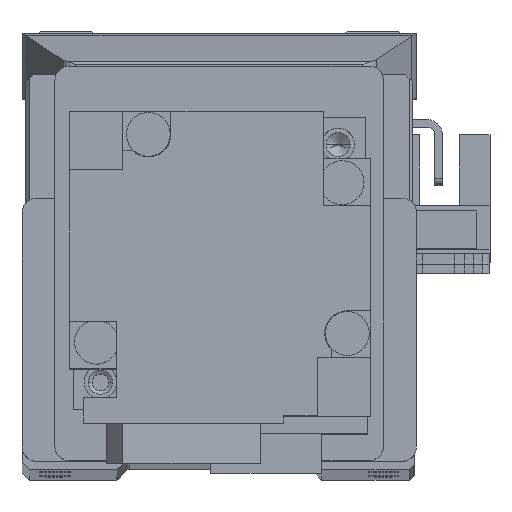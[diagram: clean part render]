
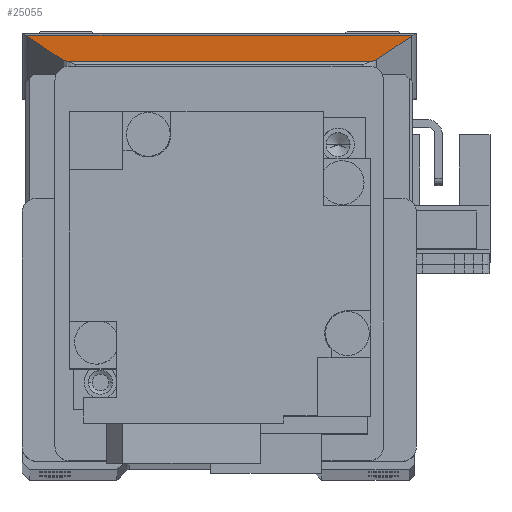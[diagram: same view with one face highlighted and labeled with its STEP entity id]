
A CAD part, top view. The second image highlights one B-rep face of the part: STEP entity #25055.
In plain terms, the highlighted planar face has unit normal (0, 0.966, 0.258).
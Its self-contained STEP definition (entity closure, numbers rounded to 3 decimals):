
#425 =( BOUNDED_CURVE ( )  B_SPLINE_CURVE ( 3, ( #731, #18451, #21649, #33460 ),
 .UNSPECIFIED., .F., .F. ) 
 B_SPLINE_CURVE_WITH_KNOTS ( ( 4, 4 ),
 ( 4.332, 4.388 ),
 .UNSPECIFIED. ) 
 CURVE ( )  GEOMETRIC_REPRESENTATION_ITEM ( )  RATIONAL_B_SPLINE_CURVE ( ( 1., 1., 1., 1. ) ) 
 REPRESENTATION_ITEM ( '' )  );
#731 = CARTESIAN_POINT ( 'NONE',  ( 26.285, 49.723, 44.788 ) ) ;
#1481 = CARTESIAN_POINT ( 'NONE',  ( 27., 46.299, 57.629 ) ) ;
#2100 = CARTESIAN_POINT ( 'NONE',  ( 21.121, 46.359, 57.405 ) ) ;
#2180 = CARTESIAN_POINT ( 'NONE',  ( -21.503, 46.535, 56.743 ) ) ;
#2993 = ORIENTED_EDGE ( 'NONE', *, *, #35542, .T. ) ;
#3216 = FACE_OUTER_BOUND ( 'NONE', #4345, .T. ) ;
#4345 = EDGE_LOOP ( 'NONE', ( #29392, #35429, #2993, #20332, #15491, #14915, #11679, #35006 ) ) ;
#4455 =( BOUNDED_CURVE ( )  B_SPLINE_CURVE ( 3, ( #10727, #2100, #27875, #22506 ),
 .UNSPECIFIED., .F., .F. ) 
 B_SPLINE_CURVE_WITH_KNOTS ( ( 4, 4 ),
 ( 3.761, 4.332 ),
 .UNSPECIFIED. ) 
 CURVE ( )  GEOMETRIC_REPRESENTATION_ITEM ( )  RATIONAL_B_SPLINE_CURVE ( ( 1., 0.973, 0.973, 1. ) ) 
 REPRESENTATION_ITEM ( '' )  );
#4469 = LINE ( 'NONE', #1481, #26791 ) ;
#4616 = EDGE_CURVE ( 'NONE', #5844, #36086, #9837, .T. ) ;
#5209 = EDGE_CURVE ( 'NONE', #10524, #16315, #4455, .T. ) ;
#5844 = VERTEX_POINT ( 'NONE', #2180 ) ;
#6038 = VECTOR ( 'NONE', #15320, 1000. ) ;
#6215 = EDGE_CURVE ( 'NONE', #23630, #31814, #425, .T. ) ;
#6425 = EDGE_CURVE ( 'NONE', #10524, #36086, #4469, .T. ) ;
#6682 = CARTESIAN_POINT ( 'NONE',  ( 26.285, 49.723, 44.788 ) ) ;
#7770 = CARTESIAN_POINT ( 'NONE',  ( 21.503, 46.535, 56.743 ) ) ;
#8201 = CARTESIAN_POINT ( 'NONE',  ( 20.806, 46.299, 57.629 ) ) ;
#9001 = DIRECTION ( 'NONE',  ( 0., 0.258, -0.966 ) ) ;
#9837 =( BOUNDED_CURVE ( )  B_SPLINE_CURVE ( 3, ( #24827, #16152, #19214, #19085 ),
 .UNSPECIFIED., .F., .F. ) 
 B_SPLINE_CURVE_WITH_KNOTS ( ( 4, 4 ),
 ( 1.951, 2.523 ),
 .UNSPECIFIED. ) 
 CURVE ( )  GEOMETRIC_REPRESENTATION_ITEM ( )  RATIONAL_B_SPLINE_CURVE ( ( 1., 0.973, 0.973, 1. ) ) 
 REPRESENTATION_ITEM ( '' )  );
#10428 =( BOUNDED_CURVE ( )  B_SPLINE_CURVE ( 3, ( #25057, #22533, #16384, #31387 ),
 .UNSPECIFIED., .F., .F. ) 
 B_SPLINE_CURVE_WITH_KNOTS ( ( 4, 4 ),
 ( 1.896, 1.951 ),
 .UNSPECIFIED. ) 
 CURVE ( )  GEOMETRIC_REPRESENTATION_ITEM ( )  RATIONAL_B_SPLINE_CURVE ( ( 1., 1., 1., 1. ) ) 
 REPRESENTATION_ITEM ( '' )  );
#10524 = VERTEX_POINT ( 'NONE', #8201 ) ;
#10727 = CARTESIAN_POINT ( 'NONE',  ( 20.806, 46.299, 57.629 ) ) ;
#11679 = ORIENTED_EDGE ( 'NONE', *, *, #6425, .F. ) ;
#11772 = PLANE ( 'NONE',  #15812 ) ;
#12834 = EDGE_CURVE ( 'NONE', #37447, #5844, #17880, .T. ) ;
#14280 = LINE ( 'NONE', #37147, #36768 ) ;
#14282 = VERTEX_POINT ( 'NONE', #26313 ) ;
#14530 = CARTESIAN_POINT ( 'NONE',  ( 26.477, 49.862, 44.266 ) ) ;
#14915 = ORIENTED_EDGE ( 'NONE', *, *, #4616, .T. ) ;
#15007 = EDGE_CURVE ( 'NONE', #16315, #23630, #32760, .T. ) ;
#15320 = DIRECTION ( 'NONE',  ( 0.361, -0.24, 0.901 ) ) ;
#15491 = ORIENTED_EDGE ( 'NONE', *, *, #12834, .T. ) ;
#15812 = AXIS2_PLACEMENT_3D ( 'NONE', #32283, #17653, #9001 ) ;
#16152 = CARTESIAN_POINT ( 'NONE',  ( -21.36, 46.44, 57.101 ) ) ;
#16315 = VERTEX_POINT ( 'NONE', #7770 ) ;
#16384 = CARTESIAN_POINT ( 'NONE',  ( -26.354, 49.769, 44.616 ) ) ;
#17653 = DIRECTION ( 'NONE',  ( 0., -0.966, -0.258 ) ) ;
#17880 = LINE ( 'NONE', #36217, #6038 ) ;
#18451 = CARTESIAN_POINT ( 'NONE',  ( 26.354, 49.769, 44.616 ) ) ;
#19085 = CARTESIAN_POINT ( 'NONE',  ( -20.806, 46.299, 57.629 ) ) ;
#19214 = CARTESIAN_POINT ( 'NONE',  ( -21.121, 46.359, 57.405 ) ) ;
#20292 = CARTESIAN_POINT ( 'NONE',  ( -26.285, 49.723, 44.788 ) ) ;
#20332 = ORIENTED_EDGE ( 'NONE', *, *, #23255, .T. ) ;
#21649 = CARTESIAN_POINT ( 'NONE',  ( 26.418, 49.815, 44.442 ) ) ;
#21893 = DIRECTION ( 'NONE',  ( -1., 0., 0. ) ) ;
#22506 = CARTESIAN_POINT ( 'NONE',  ( 21.503, 46.535, 56.743 ) ) ;
#22533 = CARTESIAN_POINT ( 'NONE',  ( -26.418, 49.815, 44.442 ) ) ;
#23255 = EDGE_CURVE ( 'NONE', #14282, #37447, #10428, .T. ) ;
#23630 = VERTEX_POINT ( 'NONE', #6682 ) ;
#24827 = CARTESIAN_POINT ( 'NONE',  ( -21.503, 46.535, 56.743 ) ) ;
#25055 = ADVANCED_FACE ( 'NONE', ( #3216 ), #11772, .F. ) ;
#25057 = CARTESIAN_POINT ( 'NONE',  ( -26.477, 49.862, 44.266 ) ) ;
#25669 = DIRECTION ( 'NONE',  ( -1., 0., 0. ) ) ;
#26313 = CARTESIAN_POINT ( 'NONE',  ( -26.477, 49.862, 44.266 ) ) ;
#26791 = VECTOR ( 'NONE', #21893, 1000. ) ;
#27875 = CARTESIAN_POINT ( 'NONE',  ( 21.36, 46.44, 57.101 ) ) ;
#29392 = ORIENTED_EDGE ( 'NONE', *, *, #15007, .T. ) ;
#30671 = CARTESIAN_POINT ( 'NONE',  ( -20.806, 46.299, 57.629 ) ) ;
#31387 = CARTESIAN_POINT ( 'NONE',  ( -26.285, 49.723, 44.788 ) ) ;
#31814 = VERTEX_POINT ( 'NONE', #14530 ) ;
#32283 = CARTESIAN_POINT ( 'NONE',  ( 27., 46.299, 57.629 ) ) ;
#32760 = LINE ( 'NONE', #36135, #34127 ) ;
#33305 = DIRECTION ( 'NONE',  ( 0.361, 0.24, -0.901 ) ) ;
#33460 = CARTESIAN_POINT ( 'NONE',  ( 26.477, 49.862, 44.266 ) ) ;
#34127 = VECTOR ( 'NONE', #33305, 1000. ) ;
#35006 = ORIENTED_EDGE ( 'NONE', *, *, #5209, .T. ) ;
#35429 = ORIENTED_EDGE ( 'NONE', *, *, #6215, .T. ) ;
#35542 = EDGE_CURVE ( 'NONE', #31814, #14282, #14280, .T. ) ;
#36086 = VERTEX_POINT ( 'NONE', #30671 ) ;
#36135 = CARTESIAN_POINT ( 'NONE',  ( 21.909, 46.806, 55.728 ) ) ;
#36217 = CARTESIAN_POINT ( 'NONE',  ( -14.891, 42.127, 73.273 ) ) ;
#36768 = VECTOR ( 'NONE', #25669, 1000. ) ;
#37147 = CARTESIAN_POINT ( 'NONE',  ( 27., 49.862, 44.266 ) ) ;
#37447 = VERTEX_POINT ( 'NONE', #20292 ) ;
